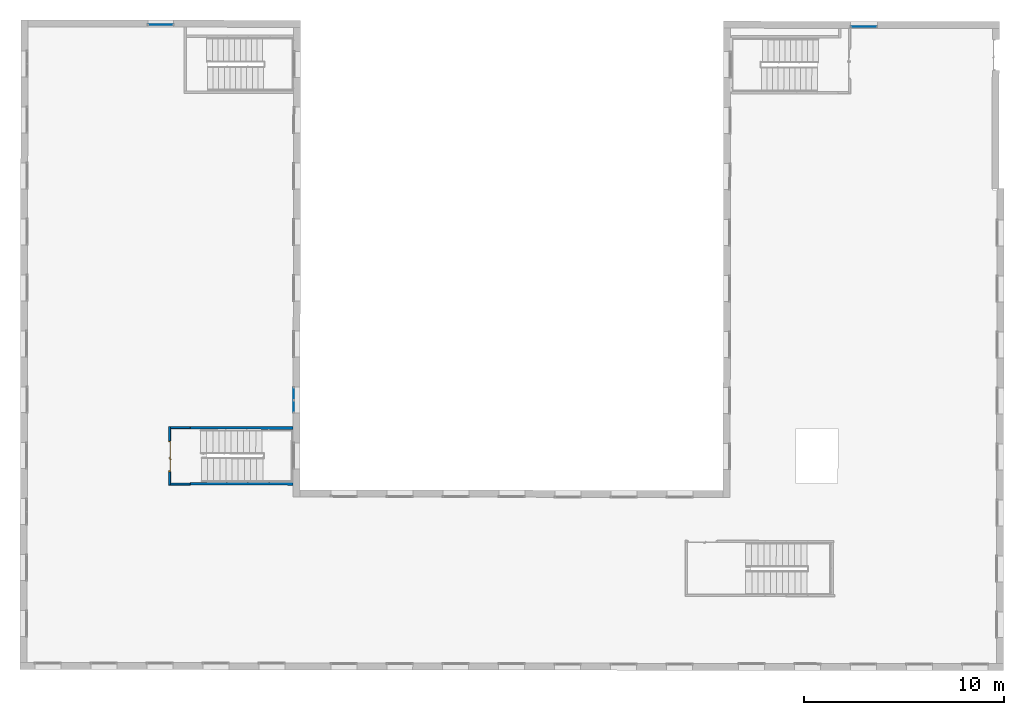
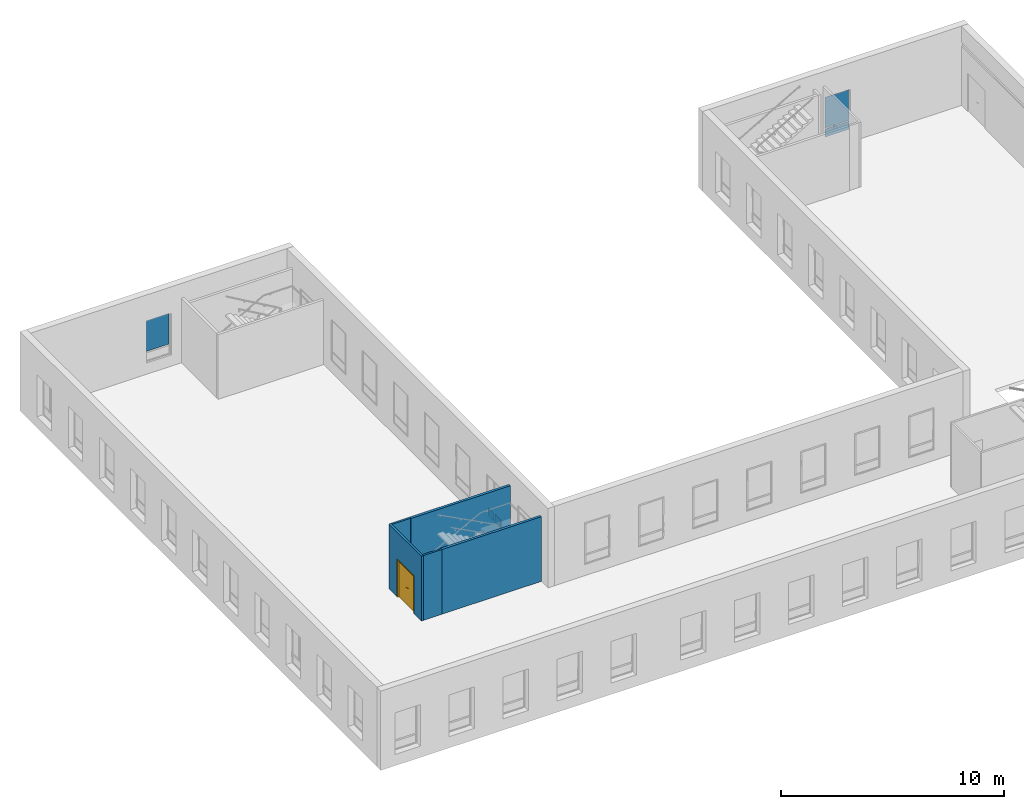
# One storey, part 29 of 35: 5 plates, 5 walls, 1 door, 1 opening, 4 elements without a shape of their own.
"""IFC2X3 building model written with IfcOpenShell, lengths in metres."""

import ifcopenshell
import ifcopenshell.guid

model = None  # the IFC model being written
_history = None  # IfcOwnerHistory: only IFC2X3 demands one
_inside = {}  # id of a spatial element -> (the spatial element, [elements in it])
_under = {}  # id of a project, library or spatial element -> (it, [spatial elements below it])
_declared = {}  # id of a project -> (the project, [libraries it declares])
_typed = {}  # id of a type object -> (the type object, [elements of that type])
_made_of = {}  # id of a material, layer set ... -> (it, [elements and type objects made of it])


def new_model(schema):
    """Start an empty IFC model of exactly this schema.

    Asked for "IFC4X3", IfcOpenShell would pick the latest addendum, in which some entities
    have other attributes; the version numbers below select the first issue.
    IFC2X3 requires an IfcOwnerHistory on every rooted entity: one is made here for all.
    """
    global model, _history
    if schema == "IFC4X3":
        model = ifcopenshell.file(schema_version=(4, 3, 0, 0))
    else:
        model = ifcopenshell.file(schema=schema)
    _inside.clear()
    _under.clear()
    _declared.clear()
    _typed.clear()
    _made_of.clear()
    _history = None
    if model.schema == "IFC2X3":
        org = make("IfcOrganization", Name="unknown")
        user = make(
            "IfcPersonAndOrganization",
            ThePerson=make("IfcPerson", FamilyName="unknown"),
            TheOrganization=org,
        )
        app = make(
            "IfcApplication",
            ApplicationDeveloper=org,
            Version="unknown",
            ApplicationFullName="unknown",
            ApplicationIdentifier="unknown",
        )
        _history = make(
            "IfcOwnerHistory",
            OwningUser=user,
            OwningApplication=app,
            ChangeAction="ADDED",
            CreationDate=0,
        )
    return model


def make(cls, **values):
    """One entity of the class cls with the attributes given. An attribute that is None is left unset."""
    return model.create_entity(
        cls, **{name: value for name, value in values.items() if value is not None}
    )


def entity(cls, *values):
    """Any entity or typed value of the class cls, its attributes in the order of the schema. None: left unset."""
    e = model.create_entity(cls)
    for i, value in enumerate(values):
        if value is not None:
            e[i] = value
    return e


def rooted(cls, **values):
    """An entity with a GlobalId (a new one), such as an element, a storey or a relation."""
    return make(cls, GlobalId=ifcopenshell.guid.new(), OwnerHistory=_history, **values)


def si_unit(unit_type, name, prefix=None):
    """IfcSIUnit, for example si_unit("LENGTHUNIT", "METRE", prefix="MILLI")."""
    return make("IfcSIUnit", UnitType=unit_type, Prefix=prefix, Name=name)


def converted_unit(unit_type, name, factor, base, dimensions=None, offset=None):
    """IfcConversionBasedUnit, such as the inch: factor (a typed value) times the base unit."""
    return make(
        "IfcConversionBasedUnit"
        if offset is None
        else "IfcConversionBasedUnitWithOffset",
        ConversionOffset=offset,
        Dimensions=None
        if dimensions is None
        else entity("IfcDimensionalExponents", *dimensions),
        UnitType=unit_type,
        Name=name,
        ConversionFactor=make(
            "IfcMeasureWithUnit", ValueComponent=factor, UnitComponent=base
        ),
    )


def derived_unit(unit_type, elements):
    """IfcDerivedUnit: a product of units, each with its exponent."""
    return make(
        "IfcDerivedUnit",
        Elements=[
            make("IfcDerivedUnitElement", Unit=unit, Exponent=power)
            for unit, power in elements
        ],
        UnitType=unit_type,
    )


def assignment(units):
    """IfcUnitAssignment: the units of a project."""
    return None if units is None else make("IfcUnitAssignment", Units=units)


def point(xyz):
    """IfcCartesianPoint."""
    return None if xyz is None else make("IfcCartesianPoint", Coordinates=xyz)


def direction(xyz):
    """IfcDirection."""
    return None if xyz is None else make("IfcDirection", DirectionRatios=xyz)


def frame(location, z_axis=None, x_axis=None):
    """IfcAxis2Placement3D, a coordinate frame: its origin and axes. An axis left out is left unset."""
    return make(
        "IfcAxis2Placement3D",
        Location=point(location),
        Axis=direction(z_axis),
        RefDirection=direction(x_axis),
    )


def frame_2d(location, x_axis=None):
    """IfcAxis2Placement2D, a coordinate frame in the plane: its origin and x axis."""
    return make(
        "IfcAxis2Placement2D", Location=point(location), RefDirection=direction(x_axis)
    )


def origin():
    """The frame at (0, 0, 0) with its axes left unset."""
    return frame((0.0, 0.0, 0.0))


def place(relative_to, where):
    """IfcLocalPlacement: puts the frame where relative to a parent placement (None: the world)."""
    return make(
        "IfcLocalPlacement", PlacementRelTo=relative_to, RelativePlacement=where
    )


def context(
    kind, dimensions, precision=None, world=None, true_north=None, identifier=None
):
    """IfcGeometricRepresentationContext, for example the 3D "Model" context."""
    return make(
        "IfcGeometricRepresentationContext",
        ContextIdentifier=identifier,
        ContextType=kind,
        CoordinateSpaceDimension=dimensions,
        Precision=precision,
        WorldCoordinateSystem=world,
        TrueNorth=true_north,
    )


def subcontext(parent, identifier, kind, view, scale=None):
    """IfcGeometricRepresentationSubContext, for example "Body" below "Model"."""
    return make(
        "IfcGeometricRepresentationSubContext",
        ContextIdentifier=identifier,
        ContextType=kind,
        ParentContext=parent,
        TargetScale=scale,
        TargetView=view,
    )


def project(units=None, contexts=None):
    """IfcProject with its units and contexts."""
    return rooted(
        "IfcProject",
        Name="project",
        RepresentationContexts=contexts,
        UnitsInContext=assignment(units),
    )


def spatial(cls, under=None, at=None, **own):
    """A site, building, storey or space (cls), placed at a placement, below another one or the project."""
    s = rooted(cls, ObjectPlacement=at, **own)
    if under is not None:
        _under.setdefault(under.id(), (under, []))[1].append(s)
    return s


def profile(cls, at=None, kind="AREA", **sizes):
    """A parametric profile (cls). Its sizes go by their IFC names, for example OverallWidth=200.0."""
    return make(cls, ProfileType=kind, Position=at, **sizes)


def rectangle(**sizes):
    """IfcRectangleProfileDef."""
    return profile("IfcRectangleProfileDef", **sizes)


def extrude(swept, where, along, depth):
    """IfcExtrudedAreaSolid: the profile swept, set in the frame where, extruded along a direction by depth."""
    return make(
        "IfcExtrudedAreaSolid",
        SweptArea=swept,
        Position=where,
        ExtrudedDirection=direction(along),
        Depth=depth,
    )


def faces_of(points, faces, orient=None, outer=None):
    """IfcFace entities. A face is a list of loops; a loop is a list of indices into points, from 0.

    orient and outer hold one flag for each loop. By default every Orientation is true, the
    first loop of a face is its IfcFaceOuterBound and the others are IfcFaceBound.
    """
    made = []
    for i, loops in enumerate(faces):
        bounds = []
        for j, loop in enumerate(loops):
            is_outer = j == 0 if outer is None else outer[i][j]
            bounds.append(
                make(
                    "IfcFaceOuterBound" if is_outer else "IfcFaceBound",
                    Bound=make("IfcPolyLoop", Polygon=[points[k] for k in loop]),
                    Orientation=True if orient is None else orient[i][j],
                )
            )
        made.append(make("IfcFace", Bounds=bounds))
    return made


def faceted_brep(points, faces, orient=None, outer=None, voids=None):
    """IfcFacetedBrep: a solid bounded by flat faces; with voids (closed shells), ...WithVoids."""
    shared = [point(p) for p in points]
    hull = make("IfcClosedShell", CfsFaces=faces_of(shared, faces, orient, outer))
    if voids is None:
        return make("IfcFacetedBrep", Outer=hull)
    return make(
        "IfcFacetedBrepWithVoids",
        Outer=hull,
        Voids=[
            make(cls, CfsFaces=faces_of(shared, fs, o, b)) for cls, fs, o, b in voids
        ],
    )


def shape(context_of_items, identifier, shape_type, items):
    """IfcShapeRepresentation: the items that make up one representation, for example the "Body"."""
    return make(
        "IfcShapeRepresentation",
        ContextOfItems=context_of_items,
        RepresentationIdentifier=identifier,
        RepresentationType=shape_type,
        Items=items,
    )


def source(mapping_origin, context_of_items, identifier, shape_type, items):
    """IfcRepresentationMap: a shape defined once, which mapped items show again and again."""
    return make(
        "IfcRepresentationMap",
        MappingOrigin=mapping_origin,
        MappedRepresentation=shape(context_of_items, identifier, shape_type, items),
    )


def transform(
    local_origin,
    x_axis=None,
    y_axis=None,
    z_axis=None,
    scale=None,
    scale2=None,
    scale3=None,
    uniform=True,
):
    """IfcCartesianTransformationOperator3D, or its non-uniform kind. x_axis, y_axis, z_axis: its Axis1, 2, 3."""
    if uniform:
        return make(
            "IfcCartesianTransformationOperator3D",
            Axis1=direction(x_axis),
            Axis2=direction(y_axis),
            LocalOrigin=point(local_origin),
            Scale=scale,
            Axis3=direction(z_axis),
        )
    return make(
        "IfcCartesianTransformationOperator3DnonUniform",
        Axis1=direction(x_axis),
        Axis2=direction(y_axis),
        LocalOrigin=point(local_origin),
        Scale=scale,
        Axis3=direction(z_axis),
        Scale2=scale2,
        Scale3=scale3,
    )


def mapped(mapping_source, mapping_target):
    """IfcMappedItem: shows the shape of a source again, moved by a transform."""
    return make(
        "IfcMappedItem", MappingSource=mapping_source, MappingTarget=mapping_target
    )


def material(Name=None, Category=None):
    """IfcMaterial."""
    return make("IfcMaterial", Name=Name, Category=Category)


def material_list(materials):
    """IfcMaterialList."""
    return make("IfcMaterialList", Materials=materials)


def layer(
    of_material, thickness, ventilated=None, Name=None, Category=None, Priority=None
):
    """IfcMaterialLayer: one layer of a wall or slab, of a material (None: an air gap)."""
    return make(
        "IfcMaterialLayer",
        Material=of_material,
        LayerThickness=thickness,
        IsVentilated=ventilated,
        Name=Name,
        Category=Category,
        Priority=Priority,
    )


def layer_set(layers, Name=None):
    """IfcMaterialLayerSet."""
    return make("IfcMaterialLayerSet", MaterialLayers=layers, LayerSetName=Name)


def layer_usage(for_layer_set, set_direction, sense, offset, extent=None):
    """IfcMaterialLayerSetUsage: how a layer set lies in its element."""
    return make(
        "IfcMaterialLayerSetUsage",
        ForLayerSet=for_layer_set,
        LayerSetDirection=set_direction,
        DirectionSense=sense,
        OffsetFromReferenceLine=offset,
        ReferenceExtent=extent,
    )


def made_of(thing, what):
    """Note that an element or type object is made of a material, layer set ...; save() writes the relation."""
    if what is not None:
        _made_of.setdefault(what.id(), (what, []))[1].append(thing)
    return thing


def type_object(cls, material=None, **own):
    """A type object (cls), such as IfcWallType, which elements share."""
    return made_of(rooted(cls, **own), material)


def type_shapes(of_type, sources):
    """Give a type object the sources (RepresentationMaps) that its elements show as mapped items."""
    of_type.RepresentationMaps = sources


def element(
    cls,
    number,
    at=None,
    inside=None,
    cuts=None,
    type_object=None,
    material=None,
    context=None,
    identifier="Body",
    shape_type=None,
    held_by="IfcProductDefinitionShape",
    body=None,
    shapes=None,
    **own,
):
    """One element of the class cls, such as IfcWall. Its Tag is "e" and its number.

    at: its placement. inside: the storey or other place that contains it. cuts: it is an
    opening in that element (IfcRelVoidsElement). A single representation is given by context,
    identifier, shape_type and body (its items); several are given by shapes. held_by: the class
    of the entity that holds the representations. save() writes the other relations.
    """
    e = rooted(cls, Tag="e%d" % number, ObjectPlacement=at, **own)
    if body is not None:
        shapes = [shape(context, identifier, shape_type, body)]
    if shapes is not None:
        e.Representation = make(held_by, Representations=shapes)
    if inside is not None:
        _inside.setdefault(inside.id(), (inside, []))[1].append(e)
    if cuts is not None:
        rooted(
            "IfcRelVoidsElement", RelatingBuildingElement=cuts, RelatedOpeningElement=e
        )
    if type_object is not None:
        _typed.setdefault(type_object.id(), (type_object, []))[1].append(e)
    return made_of(e, material)


def fill(opening, filler):
    """IfcRelFillsElement: the door or window that sits in an opening."""
    return rooted(
        "IfcRelFillsElement",
        RelatingOpeningElement=opening,
        RelatedBuildingElement=filler,
    )


def aggregate(whole, parts):
    """IfcRelAggregates: a whole, such as a stair, and the parts it consists of."""
    return rooted("IfcRelAggregates", RelatingObject=whole, RelatedObjects=parts)


def save(model, path):
    """Write the relations noted so far, then the file.

    IfcRelAggregates (storeys below a building ...), IfcRelContainedInSpatialStructure (elements
    in a storey), IfcRelDefinesByType, IfcRelAssociatesMaterial and IfcRelDeclares: one each for
    every whole, place, type object, material and project.
    """
    for whole, parts in _under.values():
        aggregate(whole, parts)
    for where, things in _inside.values():
        rooted(
            "IfcRelContainedInSpatialStructure",
            RelatedElements=things,
            RelatingStructure=where,
        )
    for kind, things in _typed.values():
        rooted("IfcRelDefinesByType", RelatedObjects=things, RelatingType=kind)
    for what, things in _made_of.values():
        rooted("IfcRelAssociatesMaterial", RelatedObjects=things, RelatingMaterial=what)
    for by, libraries in _declared.values():
        rooted("IfcRelDeclares", RelatingContext=by, RelatedDefinitions=libraries)
    model.write(path)


model = new_model("IFC2X3")

# Units and contexts
model_context = context("Model", 3, precision=1e-05, world=origin(), true_north=direction((6.123233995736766e-17, 1.0)))
body_context = subcontext(model_context, "Body", "Model", "MODEL_VIEW")
ifc_project = project(units=[si_unit("LENGTHUNIT", "METRE"), si_unit("AREAUNIT", "SQUARE_METRE"), converted_unit("PLANEANGLEUNIT", "DEGREE", entity("IfcPlaneAngleMeasure", 0.017453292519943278), si_unit("PLANEANGLEUNIT", "RADIAN"), dimensions=[0, 0, 0, 0, 0, 0, 0]), derived_unit("THERMALTRANSMITTANCEUNIT", [(si_unit("MASSUNIT", "GRAM", prefix="KILO"), 1), (si_unit("THERMODYNAMICTEMPERATUREUNIT", "KELVIN"), -1), (si_unit("TIMEUNIT", "SECOND"), -3)])], contexts=[model_context])

# Site, building, storey
site_placement = place(None, frame((1253.6752467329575, 2072.143113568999, 91.49999999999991), z_axis=(0.0, 0.0, 1.0), x_axis=(0.7237211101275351, 0.6900925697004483, 0.0)))
site = spatial("IfcSite", under=ifc_project, at=site_placement, Name="Surface", CompositionType="ELEMENT")
building_placement = place(site_placement, origin())
building = spatial("IfcBuilding", under=site, at=building_placement, CompositionType="ELEMENT")
storey_placement = place(building_placement, frame((0.0, 0.0, 3.549999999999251)))
storey = spatial("IfcBuildingStorey", under=building, at=storey_placement, Name="1-R+1", CompositionType="ELEMENT", Elevation=3.549999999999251)

# Curtain wall, plate
curtain_wall_type = type_object("IfcCurtainWallType", Name="Mur-rideau:Menuiserie Ext 1F+1OB VERTIC", PredefinedType="NOTDEFINED")
curtain_wall_1_placement = place(storey_placement, frame((0.0, 0.0, -3.549999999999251)))
curtain_wall_1 = element("IfcCurtainWall", 1, at=curtain_wall_1_placement, inside=storey, type_object=curtain_wall_type, Name="Mur-rideau:Menuiserie Ext 1F+1OB VERTIC", ObjectType="Mur-rideau:Menuiserie Ext 1F+1OB VERTIC")
ifc_material_1 = material(Name="Verre")
ifc_layer_1 = layer(ifc_material_1, 0.01)
ifc_layer_set_1 = layer_set([ifc_layer_1], Name="Panneau système:Vitré")
plate_type_1 = type_object("IfcPlateType", Name="Panneau système:Vitré", PredefinedType="CURTAIN_PANEL", material=ifc_layer_set_1)
shared_shape_1 = source(origin(), body_context, "Body", "SweptSolid", [
    extrude(rectangle(XDim=0.01, YDim=1.199695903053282, at=frame_2d((0.0, 4.163336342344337e-15), x_axis=(1.0, 0.0))), frame((0.0, 0.0, 0.0), z_axis=(0.0, 0.0, 1.0), x_axis=(0.0, 1.0, 0.0)), (0.0, 0.0, 1.0), 1.6849999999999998),
])
type_shapes(plate_type_1, [shared_shape_1])
plate_1_placement = place(curtain_wall_1_placement, frame((171.09071187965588, 22.746701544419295, 4.714999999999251), z_axis=(0.0, 0.0, 1.0), x_axis=(-0.7228702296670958, 0.6909838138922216, 0.0)))
plate_1 = element("IfcPlate", 2, at=plate_1_placement, type_object=plate_type_1, material=ifc_material_1, Name="Panneau système:Vitré", ObjectType="Panneau système:Vitré", context=body_context, shape_type="MappedRepresentation", body=[
    mapped(shared_shape_1, transform((0.0, 0.0, 0.0), scale=1.0)),
])
aggregate(curtain_wall_1, [plate_1])

curtain_wall_2_placement = place(storey_placement, frame((0.0, 0.0, -3.549999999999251)))
curtain_wall_2 = element("IfcCurtainWall", 3, at=curtain_wall_2_placement, inside=storey, type_object=curtain_wall_type, Name="Mur-rideau:Menuiserie Ext 1F+1OB VERTIC", ObjectType="Mur-rideau:Menuiserie Ext 1F+1OB VERTIC")
ifc_material_2 = material(Name="OMD-Verre opal")
ifc_layer_2 = layer(ifc_material_1, 0.01)
ifc_layer_set_2 = layer_set([ifc_layer_2], Name="Panneau système:Vitré opal")
plate_type_2 = type_object("IfcPlateType", Name="Panneau système:Vitré opal", PredefinedType="CURTAIN_PANEL", material=ifc_layer_set_2)
shared_shape_2 = source(origin(), body_context, "Body", "SweptSolid", [
    extrude(rectangle(XDim=0.01, YDim=0.5496959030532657, at=frame_2d((0.0, 3.608224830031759e-16), x_axis=(1.0, 0.0))), frame((0.0, 0.0, 0.0), z_axis=(0.0, 0.0, 1.0), x_axis=(0.0, 1.0, 0.0)), (0.0, 0.0, 1.0), 0.44499999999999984),
])
type_shapes(plate_type_2, [shared_shape_2])
plate_2_placement = place(curtain_wall_2_placement, frame((162.72651495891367, 4.341201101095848, 4.219999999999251), z_axis=(0.0, 0.0, 1.0), x_axis=(0.6909838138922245, 0.722870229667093, 0.0)))
plate_2 = element("IfcPlate", 4, at=plate_2_placement, type_object=plate_type_2, material=ifc_material_2, Name="Panneau système:Vitré opal", ObjectType="Panneau système:Vitré opal", context=body_context, shape_type="MappedRepresentation", body=[
    mapped(shared_shape_2, transform((0.0, 0.0, 0.0), scale=1.0)),
])
aggregate(curtain_wall_2, [plate_2])

# Curtain wall, plates
curtain_wall_3_placement = place(storey_placement, frame((0.0, 0.0, -3.549999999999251)))
curtain_wall_3 = element("IfcCurtainWall", 5, at=curtain_wall_3_placement, inside=storey, type_object=curtain_wall_type, Name="Mur-rideau:Menuiserie Ext 1F+1OB VERTIC", ObjectType="Mur-rideau:Menuiserie Ext 1F+1OB VERTIC")
plate_type_3 = type_object("IfcPlateType", Name="Panneau système:Vitré", PredefinedType="CURTAIN_PANEL", material=ifc_layer_set_1)
shared_shape_3 = source(origin(), body_context, "Body", "SweptSolid", [
    extrude(rectangle(XDim=0.01, YDim=1.2324797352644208, at=frame_2d((0.0, -4.052314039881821e-15), x_axis=(1.0, 0.0))), frame((0.0, 0.0, 0.0), z_axis=(0.0, 0.0, 1.0), x_axis=(0.0, 1.0, 0.0)), (0.0, 0.0, 1.0), 0.44499999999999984),
])
type_shapes(plate_type_3, [shared_shape_3])
plate_3_placement = place(curtain_wall_3_placement, frame((196.48751592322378, -1.6016549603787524, 4.219999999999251), z_axis=(0.0, 0.0, 1.0), x_axis=(-0.7228702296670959, 0.6909838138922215, 0.0)))
plate_3 = element("IfcPlate", 6, at=plate_3_placement, type_object=plate_type_3, material=ifc_material_1, Name="Panneau système:Vitré", ObjectType="Panneau système:Vitré", context=body_context, shape_type="MappedRepresentation", body=[
    mapped(shared_shape_3, transform((0.0, 0.0, 0.0), scale=1.0)),
])
plate_type_4 = type_object("IfcPlateType", Name="Panneau système:Vitré", PredefinedType="CURTAIN_PANEL", material=ifc_layer_set_1)
shared_shape_4 = source(origin(), body_context, "Body", "SweptSolid", [
    extrude(rectangle(XDim=0.01, YDim=1.2324797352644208, at=frame_2d((0.0, -4.052314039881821e-15), x_axis=(1.0, 0.0))), frame((0.0, 0.0, 0.0), z_axis=(0.0, 0.0, 1.0), x_axis=(0.0, 1.0, 0.0)), (0.0, 0.0, 1.0), 1.6849999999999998),
])
type_shapes(plate_type_4, [shared_shape_4])
plate_4_placement = place(curtain_wall_3_placement, frame((196.48751592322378, -1.6016549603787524, 4.714999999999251), z_axis=(0.0, 0.0, 1.0), x_axis=(-0.7228702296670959, 0.6909838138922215, 0.0)))
plate_4 = element("IfcPlate", 7, at=plate_4_placement, type_object=plate_type_4, material=ifc_material_1, Name="Panneau système:Vitré", ObjectType="Panneau système:Vitré", context=body_context, shape_type="MappedRepresentation", body=[
    mapped(shared_shape_4, transform((0.0, 0.0, 0.0), scale=1.0)),
])
aggregate(curtain_wall_3, [plate_3, plate_4])

# Curtain wall, plate
curtain_wall_4_placement = place(storey_placement, frame((0.0, 0.0, -3.549999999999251)))
curtain_wall_4 = element("IfcCurtainWall", 8, at=curtain_wall_4_placement, inside=storey, type_object=curtain_wall_type, Name="Mur-rideau:Menuiserie Ext 1F+1OB VERTIC", ObjectType="Mur-rideau:Menuiserie Ext 1F+1OB VERTIC")
plate_type_5 = type_object("IfcPlateType", Name="Panneau système:Vitré opal", PredefinedType="CURTAIN_PANEL", material=ifc_layer_set_2)
shared_shape_5 = source(origin(), body_context, "Body", "SweptSolid", [
    extrude(rectangle(XDim=0.01, YDim=0.5500000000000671, at=frame_2d((0.0, 3.885780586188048e-15), x_axis=(1.0, 0.0))), frame((0.0, 0.0, 0.0), z_axis=(0.0, 0.0, 1.0), x_axis=(0.0, 1.0, 0.0)), (0.0, 0.0, 1.0), 0.44499999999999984),
])
type_shapes(plate_type_5, [shared_shape_5])
plate_5_placement = place(curtain_wall_4_placement, frame((163.17554937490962, 4.810956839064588, 4.219999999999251), z_axis=(0.0, 0.0, 1.0), x_axis=(-0.6909838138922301, -0.7228702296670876, 0.0)))
plate_5 = element("IfcPlate", 9, at=plate_5_placement, type_object=plate_type_5, material=ifc_material_2, Name="Panneau système:Vitré opal", ObjectType="Panneau système:Vitré opal", context=body_context, shape_type="MappedRepresentation", body=[
    mapped(shared_shape_5, transform((0.0, 0.0, 0.0), scale=1.0)),
])
aggregate(curtain_wall_4, [plate_5])

# Walls
ifc_material_3 = material(Name="OMD_Béton blanc")
ifc_layer_3 = layer(ifc_material_3, 0.12999999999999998)
ifc_layer_set_3 = layer_set([ifc_layer_3], Name="Mur de base:MUR 13")
ifc_layer_usage_1 = layer_usage(ifc_layer_set_3, "AXIS2", "NEGATIVE", 0.06499999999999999)
wall_type_1 = type_object("IfcWallType", Name="Mur de base:MUR 13", PredefinedType="STANDARD", material=ifc_layer_set_3)
wall_1_placement = place(storey_placement, frame((160.02354715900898, 1.5641534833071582, 0.0), z_axis=(0.0, 0.0, 1.0), x_axis=(-0.7228702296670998, 0.6909838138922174, 0.0)))
element("IfcWallStandardCase", 10, at=wall_1_placement, inside=storey, type_object=wall_type_1, material=ifc_layer_usage_1, Name="Mur de base:MUR 13", ObjectType="Mur de base:MUR 13", context=body_context, shape_type="SweptSolid", body=[
    extrude(rectangle(XDim=5.140000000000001, YDim=0.13000000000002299, at=frame_2d((2.5700000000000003, -5.065392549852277e-16), x_axis=(-1.0, 0.0))), origin(), (0.0, 0.0, 1.0), 3.5499999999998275),
])
ifc_layer_usage_2 = layer_usage(ifc_layer_set_3, "AXIS2", "NEGATIVE", 0.06499999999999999)
wall_2_placement = place(storey_placement, frame((161.96553054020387, 3.5812802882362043, 0.0), z_axis=(0.0, 0.0, 1.0), x_axis=(-0.7228702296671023, 0.6909838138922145, 0.0)))
element("IfcWallStandardCase", 11, at=wall_2_placement, inside=storey, type_object=wall_type_1, material=ifc_layer_usage_2, Name="Mur de base:MUR 13", ObjectType="Mur de base:MUR 13", context=body_context, shape_type="SweptSolid", body=[
    extrude(rectangle(XDim=5.149999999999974, YDim=0.1300000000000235, at=frame_2d((2.574999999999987, 4.163336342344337e-17), x_axis=(-1.0, 0.0))), origin(), (0.0, 0.0, 1.0), 3.5499999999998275),
])

# Wall, opening, door
ifc_layer_4 = layer(ifc_material_3, 0.1)
ifc_layer_set_4 = layer_set([ifc_layer_4], Name="Mur de base:MUR 10")
ifc_layer_usage_3 = layer_usage(ifc_layer_set_4, "AXIS2", "NEGATIVE", 0.05)
wall_type_2 = type_object("IfcWallType", Name="Mur de base:MUR 10", PredefinedType="STANDARD", material=ifc_layer_set_4)
wall_3_placement = place(storey_placement, frame((155.52189006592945, 5.777319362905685, 0.0), z_axis=(0.0, 0.0, 1.0), x_axis=(0.690983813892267, 0.7228702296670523, 0.0)))
wall_3 = element("IfcWallStandardCase", 12, at=wall_3_placement, inside=storey, type_object=wall_type_2, material=ifc_layer_usage_3, Name="Mur de base:MUR 10", ObjectType="Mur de base:MUR 10", context=body_context, shape_type="SweptSolid", body=[
    extrude(rectangle(XDim=2.929999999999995, YDim=0.10000000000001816, at=frame_2d((1.4649999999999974, 1.6653345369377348e-16), x_axis=(-1.0, 0.0))), origin(), (0.0, 0.0, 1.0), 3.5499999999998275),
])
opening_placement = place(wall_3_placement, frame((2.2150000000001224, 0.04999999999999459, 0.0)))
opening = element("IfcOpeningElement", 13, at=opening_placement, cuts=wall_3, Name="OMD_Porte 2V tunnel:140x204:1", ObjectType="Opening", context=body_context, shape_type="SweptSolid", body=[
    extrude(rectangle(XDim=2.085, YDim=1.5499999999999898, at=frame_2d((1.0425, 0.7749999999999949), x_axis=(1.0, 0.0))), frame((0.0, 0.0, 0.0), z_axis=(0.0, -1.0, 0.0), x_axis=(0.0, 0.0, 1.0)), (0.0, 0.0, 1.0), 0.1),
])
ifc_material_4 = material(Name="<Unnamed>")
ifc_material_5 = material(Name="Porte - Poignée")
ifc_material_6 = material(Name="OMD_Bois")
ifc_material_list = material_list([ifc_material_4, ifc_material_5, ifc_material_6])
door_style = type_object("IfcDoorStyle", Name="OMD_Porte 2V tunnel:140x204", ConstructionType="NOTDEFINED", OperationType="NOTDEFINED", ParameterTakesPrecedence=False, Sizeable=False, material=ifc_material_list)
shared_shape_6 = source(origin(), body_context, "Body", "Brep", [
    faceted_brep([(0.1450000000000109, 0.030000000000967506, 0.0), (0.6750000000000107, 0.030000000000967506, 0.0), (0.6750000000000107, 0.0, 0.0), (0.1450000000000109, 0.0, 0.0), (0.1450000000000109, 0.030000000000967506, 2.04), (0.1450000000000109, 0.0, 2.04), (0.6750000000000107, 0.0, 2.04), (0.6750000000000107, 0.030000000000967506, 2.04)], [[[0, 1, 2, 3]], [[4, 0, 3, 5]], [[5, 3, 2, 6]], [[6, 2, 1, 7]], [[7, 1, 0, 4]], [[4, 5, 6, 7]]]),
    faceted_brep([(0.7279747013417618, 0.035000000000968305, 1.0077804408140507), (0.7239999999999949, 0.035000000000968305, 1.0069999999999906), (0.7239999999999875, 0.035000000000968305, 0.9929999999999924), (0.7279747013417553, 0.035000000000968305, 0.9922195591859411), (0.7320252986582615, 0.035000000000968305, 0.9922195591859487), (0.7360000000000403, 0.035000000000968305, 0.9930000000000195), (0.7360000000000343, 0.035000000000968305, 1.0069999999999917), (0.7320252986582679, 0.035000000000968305, 1.007780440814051), (0.7360000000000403, 0.057485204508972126, 0.9930000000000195), (0.7360000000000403, 0.057485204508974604, 1.0069999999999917), (0.7320252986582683, 0.05913157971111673, 1.007780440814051), (0.7458389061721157, 0.07294518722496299, 1.007780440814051), (0.7441610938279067, 0.07699578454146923, 1.0077804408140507), (0.7279747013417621, 0.06080939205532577, 1.0077804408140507), (0.8356847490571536, 0.06646731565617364, 1.0077804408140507), (0.8385489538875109, 0.06933152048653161, 1.0077804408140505), (0.8308846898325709, 0.07699578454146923, 1.0077804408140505), (0.8292068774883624, 0.07294518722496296, 1.0077804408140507), (0.7239999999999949, 0.06245576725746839, 1.0069999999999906), (0.7239999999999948, 0.06245576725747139, 0.9929999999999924), (0.7279747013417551, 0.060809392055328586, 0.9922195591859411), (0.7441610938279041, 0.07699578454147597, 0.9922195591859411), (0.7458389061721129, 0.07294518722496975, 0.9922195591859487), (0.7320252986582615, 0.05913157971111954, 0.9922195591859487), (0.8385489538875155, 0.06933152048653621, 0.9922195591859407), (0.8356847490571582, 0.06646731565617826, 0.9922195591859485), (0.8292068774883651, 0.07294518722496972, 0.9922195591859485), (0.8308846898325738, 0.07699578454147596, 0.9922195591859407), (0.74748528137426, 0.06897048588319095, 0.9930000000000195), (0.7474852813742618, 0.06897048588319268, 1.0069999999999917), (0.7425147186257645, 0.08097048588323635, 1.0069999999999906), (0.7425147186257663, 0.08097048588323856, 0.9929999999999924), (0.787522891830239, 0.06897048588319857, 0.9930000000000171), (0.8275605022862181, 0.06897048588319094, 0.9930000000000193), (0.8275605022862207, 0.06897048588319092, 1.0069999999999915), (0.787522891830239, 0.06897048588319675, 1.0069999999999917), (0.7875228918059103, 0.07512492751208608, 1.0078781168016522), (0.8325310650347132, 0.0809704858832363, 1.0069999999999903), (0.7926005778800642, 0.08097048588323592, 1.0069999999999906), (0.8325310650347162, 0.08097048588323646, 0.9929999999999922), (0.7824452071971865, 0.08097048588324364, 0.9929999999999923), (0.7875228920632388, 0.07512492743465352, 0.9921218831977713), (0.8328742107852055, 0.06365677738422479, 0.9930000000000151), (0.8413594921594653, 0.0721420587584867, 0.99299999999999), (0.8413594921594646, 0.07214205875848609, 1.0069999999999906), (0.8328742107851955, 0.06365677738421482, 1.0069999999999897)], [[[0, 1, 2, 3, 4, 5, 6, 7]], [[6, 5, 8, 9]], [[9, 10, 7, 6]], [[10, 11, 12, 13, 0, 7]], [[14, 15, 16, 17]], [[13, 18, 1, 0]], [[2, 1, 18, 19]], [[19, 20, 3, 2]], [[20, 21, 22, 23, 4, 3]], [[24, 25, 26, 27]], [[23, 8, 5, 4]], [[9, 8, 28, 29]], [[29, 11, 10, 9]], [[12, 30, 18, 13]], [[19, 18, 30, 31]], [[31, 21, 20, 19]], [[22, 28, 8, 23]], [[29, 28, 32, 33, 34, 35]], [[11, 35, 36]], [[16, 37, 38]], [[30, 12, 38]], [[38, 12, 36]], [[36, 35, 17]], [[17, 16, 36]], [[35, 11, 29]], [[34, 17, 35]], [[11, 36, 12]], [[38, 36, 16]], [[31, 30, 38, 37, 39, 40]], [[40, 41, 21]], [[41, 40, 27]], [[21, 31, 40]], [[39, 27, 40]], [[41, 32, 22]], [[22, 21, 41]], [[26, 32, 41]], [[28, 22, 32]], [[32, 26, 33]], [[26, 41, 27]], [[42, 25, 24, 43, 44, 15, 14, 45]], [[34, 33, 42, 45]], [[45, 14, 17, 34]], [[15, 44, 37, 16]], [[39, 37, 44, 43]], [[43, 24, 27, 39]], [[25, 42, 33, 26]]]),
    faceted_brep([(0.7279747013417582, -0.004999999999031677, 1.0077804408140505), (0.7320252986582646, -0.004999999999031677, 1.007780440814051), (0.7360000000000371, -0.004999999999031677, 1.006999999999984), (0.7360000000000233, -0.004999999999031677, 0.9930000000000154), (0.7320252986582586, -0.004999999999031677, 0.9922195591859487), (0.7279747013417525, -0.004999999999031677, 0.992219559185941), (0.7239999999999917, -0.004999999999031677, 0.992999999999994), (0.7239999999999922, -0.004999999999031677, 1.0069999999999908), (0.723999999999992, -0.03265095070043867, 1.0069999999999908), (0.727974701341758, -0.031004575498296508, 1.0077804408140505), (0.7440235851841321, -0.047053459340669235, 1.0077804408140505), (0.745701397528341, -0.043002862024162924, 1.007780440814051), (0.7320252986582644, -0.029326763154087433, 1.007780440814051), (0.8385218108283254, -0.03938919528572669, 1.0077804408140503), (0.8356576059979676, -0.036524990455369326, 1.0077804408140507), (0.8291797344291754, -0.043002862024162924, 1.0077804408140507), (0.8308575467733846, -0.047053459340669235, 1.0077804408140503), (0.7360000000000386, -0.027680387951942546, 1.0069999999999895), (0.7360000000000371, -0.027680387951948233, 0.9930000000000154), (0.7320252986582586, -0.029326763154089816, 0.9922195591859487), (0.7457013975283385, -0.04300286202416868, 0.9922195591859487), (0.7440235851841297, -0.04705345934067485, 0.992219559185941), (0.7279747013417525, -0.031004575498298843, 0.992219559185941), (0.8356576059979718, -0.03652499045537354, 0.9922195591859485), (0.8385218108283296, -0.03938919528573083, 0.9922195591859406), (0.8308575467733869, -0.04705345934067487, 0.9922195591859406), (0.8291797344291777, -0.04300286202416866, 0.9922195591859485), (0.7239999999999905, -0.03265095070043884, 0.9929999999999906), (0.7423772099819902, -0.051028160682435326, 1.0069999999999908), (0.7473477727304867, -0.03902816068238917, 1.0069999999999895), (0.7473477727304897, -0.03902816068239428, 0.9930000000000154), (0.7423772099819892, -0.05102816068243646, 0.9929999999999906), (0.7823076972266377, -0.05102816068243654, 1.0069999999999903), (0.7874405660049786, -0.045182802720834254, 1.0078781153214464), (0.8325039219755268, -0.051028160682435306, 1.0069999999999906), (0.7874405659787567, -0.039028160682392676, 1.0069999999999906), (0.8275333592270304, -0.039028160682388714, 1.0069999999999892), (0.827533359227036, -0.03902816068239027, 0.9930000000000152), (0.7874405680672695, -0.03902816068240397, 0.9930000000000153), (0.7874405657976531, -0.04518280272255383, 0.9921218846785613), (0.832503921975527, -0.05102816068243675, 0.9929999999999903), (0.7925734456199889, -0.051028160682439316, 0.9929999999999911), (0.8328470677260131, -0.03371445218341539, 1.0069999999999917), (0.8413323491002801, -0.042199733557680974, 1.0069999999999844), (0.841332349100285, -0.04219973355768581, 0.9929999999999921), (0.8328470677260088, -0.03371445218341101, 0.9930000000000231)], [[[0, 1, 2, 3, 4, 5, 6, 7]], [[8, 9, 0, 7]], [[9, 10, 11, 12, 1, 0]], [[13, 14, 15, 16]], [[12, 17, 2, 1]], [[3, 2, 17, 18]], [[18, 19, 4, 3]], [[19, 20, 21, 22, 5, 4]], [[23, 24, 25, 26]], [[22, 27, 6, 5]], [[7, 6, 27, 8]], [[28, 10, 9, 8]], [[11, 29, 17, 12]], [[18, 17, 29, 30]], [[30, 20, 19, 18]], [[21, 31, 27, 22]], [[8, 27, 31, 28]], [[32, 33, 10]], [[33, 32, 16]], [[10, 28, 32]], [[34, 16, 32]], [[33, 35, 11]], [[11, 10, 33]], [[15, 35, 33]], [[29, 11, 35]], [[35, 15, 36]], [[15, 33, 16]], [[30, 29, 35, 36, 37, 38]], [[20, 38, 39]], [[25, 40, 41]], [[31, 21, 41]], [[41, 21, 39]], [[39, 38, 26]], [[26, 25, 39]], [[38, 20, 30]], [[37, 26, 38]], [[20, 39, 21]], [[41, 39, 25]], [[28, 31, 41, 40, 34, 32]], [[42, 14, 13, 43, 44, 24, 23, 45]], [[43, 13, 16, 34]], [[14, 42, 36, 15]], [[37, 36, 42, 45]], [[45, 23, 26, 37]], [[24, 44, 40, 25]], [[34, 40, 44, 43]]]),
    faceted_brep([(0.7403527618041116, 0.030000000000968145, 0.8660039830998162), (0.7500000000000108, 0.030000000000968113, 0.8700000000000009), (0.7500000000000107, 0.030000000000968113, 1.0800000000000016), (0.7403527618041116, 0.030000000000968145, 1.0839960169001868), (0.730000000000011, 0.03000000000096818, 1.0853589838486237), (0.7196472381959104, 0.03000000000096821, 1.0839960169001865), (0.7100000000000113, 0.030000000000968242, 1.0800000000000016), (0.7100000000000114, 0.030000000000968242, 0.8700000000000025), (0.7196472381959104, 0.03000000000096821, 0.866003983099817), (0.7300000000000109, 0.03000000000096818, 0.8646410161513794), (0.7403527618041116, 0.035000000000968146, 1.0839960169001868), (0.7500000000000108, 0.03500000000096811, 1.0800000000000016), (0.7500000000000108, 0.03500000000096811, 0.8700000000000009), (0.7403527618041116, 0.035000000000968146, 0.8660039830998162), (0.7300000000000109, 0.03500000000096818, 0.8646410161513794), (0.7196472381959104, 0.035000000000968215, 0.866003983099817), (0.7100000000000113, 0.03500000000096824, 0.8700000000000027), (0.7100000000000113, 0.03500000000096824, 1.0800000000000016), (0.7196472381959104, 0.035000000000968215, 1.0839960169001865), (0.730000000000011, 0.03500000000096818, 1.0853589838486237)], [[[0, 1, 2, 3, 4, 5, 6, 7, 8, 9]], [[10, 11, 12, 13, 14, 15, 16, 17, 18, 19]], [[11, 10, 3, 2]], [[3, 10, 19, 4]], [[19, 18, 5, 4]], [[18, 17, 6, 5]], [[7, 6, 17, 16]], [[16, 15, 8, 7]], [[8, 15, 14, 9]], [[14, 13, 0, 9]], [[13, 12, 1, 0]], [[2, 1, 12, 11]]]),
    faceted_brep([(0.7403527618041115, -0.004999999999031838, 0.8660039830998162), (0.7500000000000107, -0.004999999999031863, 0.8700000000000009), (0.7500000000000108, -0.004999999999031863, 1.0800000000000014), (0.7403527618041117, -0.004999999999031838, 1.0839960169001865), (0.7300000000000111, -0.004999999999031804, 1.0853589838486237), (0.7196472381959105, -0.00499999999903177, 1.0839960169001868), (0.7100000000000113, -0.0049999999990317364, 1.0800000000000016), (0.7100000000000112, -0.0049999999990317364, 0.8700000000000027), (0.71964723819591, -0.00499999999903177, 0.8660039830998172), (0.7300000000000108, -0.004999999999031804, 0.8646410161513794), (0.7403527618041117, 0.0, 1.0839960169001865), (0.7500000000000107, 0.0, 1.0800000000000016), (0.7500000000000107, 0.0, 0.8700000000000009), (0.7403527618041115, 0.0, 0.8660039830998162), (0.7300000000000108, 0.0, 0.8646410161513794), (0.71964723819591, 0.0, 0.8660039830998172), (0.7100000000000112, 0.0, 0.8700000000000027), (0.7100000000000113, 0.0, 1.0800000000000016), (0.7196472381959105, 0.0, 1.0839960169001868), (0.7300000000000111, 0.0, 1.0853589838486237)], [[[0, 1, 2, 3, 4, 5, 6, 7, 8, 9]], [[10, 11, 12, 13, 14, 15, 16, 17, 18, 19]], [[16, 15, 8, 7]], [[8, 15, 14, 9]], [[14, 13, 0, 9]], [[13, 12, 1, 0]], [[2, 1, 12, 11]], [[11, 10, 3, 2]], [[3, 10, 19, 4]], [[19, 18, 5, 4]], [[18, 17, 6, 5]], [[7, 6, 17, 16]]]),
    faceted_brep([(0.6750000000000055, 0.030000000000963, 0.0), (1.6050000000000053, 0.0300000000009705, 0.0), (1.6050000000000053, 0.0, 0.0), (0.675000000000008, 0.0, 0.0), (0.6750000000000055, 0.030000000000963, 2.04), (0.675000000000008, 0.0, 2.04), (1.6050000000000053, 0.0, 2.04), (1.6050000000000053, 0.0300000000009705, 2.04)], [[[0, 1, 2, 3]], [[4, 0, 3, 5]], [[5, 3, 2, 6]], [[6, 2, 1, 7]], [[7, 1, 0, 4]], [[4, 5, 6, 7]]]),
    faceted_brep([(0.10000000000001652, 0.0, 0.0), (0.10000000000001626, 0.10000000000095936, 0.0), (0.1600000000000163, 0.10000000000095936, 0.0), (0.16000000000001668, 0.030000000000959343, 0.0), (0.14500000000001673, 0.0300000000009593, 0.0), (0.14500000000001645, 0.0, 0.0), (0.14500000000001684, 0.0, 2.0399999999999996), (1.605000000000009, 0.0, 2.0399999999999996), (1.6050000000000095, 0.0, 0.0), (1.6500000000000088, 0.0, 0.0), (1.6500000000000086, 0.0, 2.0849999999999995), (0.10000000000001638, 0.0, 2.085), (0.1450000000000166, 0.0300000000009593, 2.0399999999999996), (0.16000000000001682, 0.030000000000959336, 2.0249999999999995), (1.5900000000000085, 0.03000000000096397, 2.0249999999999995), (1.5900000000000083, 0.03000000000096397, 0.0), (1.6050000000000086, 0.030000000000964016, 0.0), (1.6050000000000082, 0.030000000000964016, 2.039999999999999), (0.16000000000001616, 0.10000000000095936, 2.0249999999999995), (0.10000000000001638, 0.10000000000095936, 2.0849999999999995), (1.6500000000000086, 0.10000000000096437, 2.0849999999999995), (1.6500000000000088, 0.10000000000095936, 0.0), (1.5900000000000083, 0.10000000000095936, 0.0), (1.5900000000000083, 0.10000000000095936, 2.0249999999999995)], [[[0, 1, 2, 3, 4, 5]], [[5, 6, 7, 8, 9, 10, 11, 0]], [[4, 12, 6, 5]], [[3, 13, 14, 15, 16, 17, 12, 4]], [[2, 18, 13, 3]], [[1, 19, 20, 21, 22, 23, 18, 2]], [[0, 11, 19, 1]], [[10, 9, 21, 20]], [[9, 8, 16, 15, 22, 21]], [[17, 16, 8, 7]], [[23, 22, 15, 14]], [[12, 17, 7, 6]], [[18, 23, 14, 13]], [[11, 10, 20, 19]]]),
])
type_shapes(door_style, [shared_shape_6])
door_placement = place(opening_placement, frame((-1.6500000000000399, -0.09999999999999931, 0.0)))
door = element("IfcDoor", 14, at=door_placement, inside=storey, type_object=door_style, material=ifc_material_list, Name="OMD_Porte 2V tunnel:140x204", ObjectType="OMD_Porte 2V tunnel:140x204", OverallHeight=2.085, OverallWidth=1.5499999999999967, context=body_context, shape_type="MappedRepresentation", body=[
    mapped(shared_shape_6, transform((0.0, 0.0, 0.0), scale=1.0)),
])
fill(opening, door)

# Walls
ifc_layer_usage_4 = layer_usage(ifc_layer_set_4, "AXIS2", "NEGATIVE", 0.05)
wall_4_placement = place(storey_placement, frame((157.5480669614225, 7.824636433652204, 0.0), z_axis=(0.0, 0.0, 1.0), x_axis=(0.7228702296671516, -0.690983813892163, 0.0)))
element("IfcWallStandardCase", 15, at=wall_4_placement, inside=storey, type_object=wall_type_2, material=ifc_layer_usage_4, Name="Mur de base:MUR 10", ObjectType="Mur de base:MUR 10", context=body_context, shape_type="SweptSolid", body=[
    extrude(rectangle(XDim=0.9753433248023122, YDim=0.10000000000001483, at=frame_2d((0.4876716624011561, -1.4051260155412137e-15), x_axis=(-1.0, 0.0))), origin(), (0.0, 0.0, 1.0), 3.5499999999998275),
])
ifc_layer_usage_5 = layer_usage(ifc_layer_set_4, "AXIS2", "NEGATIVE", 0.05)
wall_5_placement = place(storey_placement, frame((156.29762942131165, 5.10496723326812, 0.0), z_axis=(0.0, 0.0, 1.0), x_axis=(-0.7228702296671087, 0.6909838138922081, 0.0)))
element("IfcWallStandardCase", 16, at=wall_5_placement, inside=storey, type_object=wall_type_2, material=ifc_layer_usage_5, Name="Mur de base:MUR 10", ObjectType="Mur de base:MUR 10", context=body_context, shape_type="SweptSolid", body=[
    extrude(rectangle(XDim=0.9753433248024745, YDim=0.10000000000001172, at=frame_2d((0.48767166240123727, -5.800915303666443e-15), x_axis=(-1.0, 0.0))), origin(), (0.0, 0.0, 1.0), 3.5499999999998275),
])

save(model, "model.ifc")
